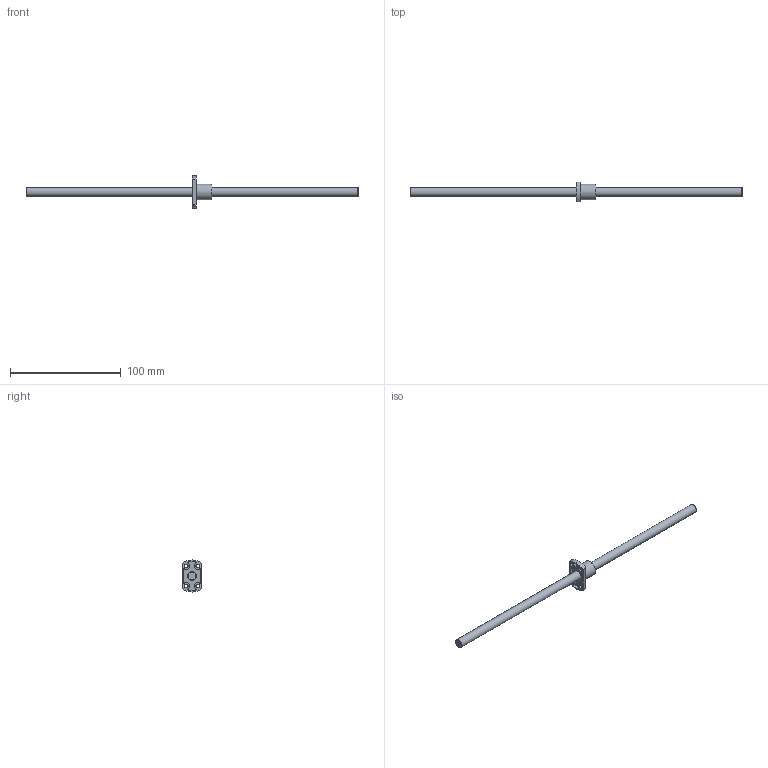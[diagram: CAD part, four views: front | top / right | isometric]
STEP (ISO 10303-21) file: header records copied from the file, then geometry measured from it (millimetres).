
FILE_DESCRIPTION((''),'2;1');
FILE_NAME('D:\製品 (図面)\カタログ用3D\ネジ関連\STEP形式\MSK\MSK08.stp','2010-06-02T14:37:38',('Tsuchiya'),(''),'Autodesk Inventor 10','Autodesk Inventor 10','');
FILE_SCHEMA(('AUTOMOTIVE_DESIGN { 1 0 10303 214 1 1 1 1 }'));
Length unit declared in the file: millimetre
Products named in the file (3): MSK08; MSK081; MSK082
Assembly tree (2 placements, depth 2):
  MSK08
    MSK081
    MSK082
Bounding box: 300 x 18 x 29 mm (x, y, z)
Volume: 17604.8 mm3; surface area: 10157.9 mm2
Topology: 2 solids, 2 shells, 31 faces, 78 edges, 53 vertices
Faces by surface type: cylinder 15, plane 14, cone 2
Full cylindrical faces by diameter (mm): 3.4 x4, 8 x2, 14 x1
Entity records: 962 total; most frequent: DIRECTION 176, CARTESIAN_POINT 148, ORIENTED_EDGE 128, AXIS2_PLACEMENT_3D 76, EDGE_CURVE 64, EDGE_LOOP 52, VERTEX_POINT 48, CIRCLE 32
